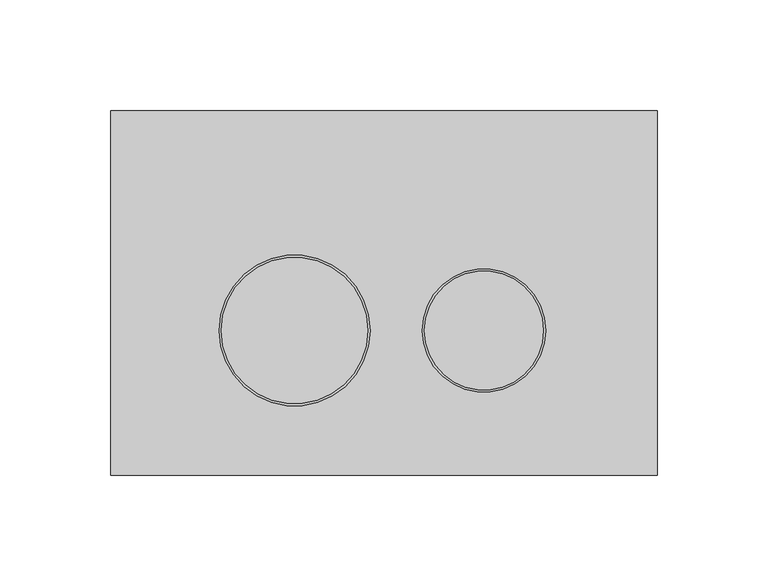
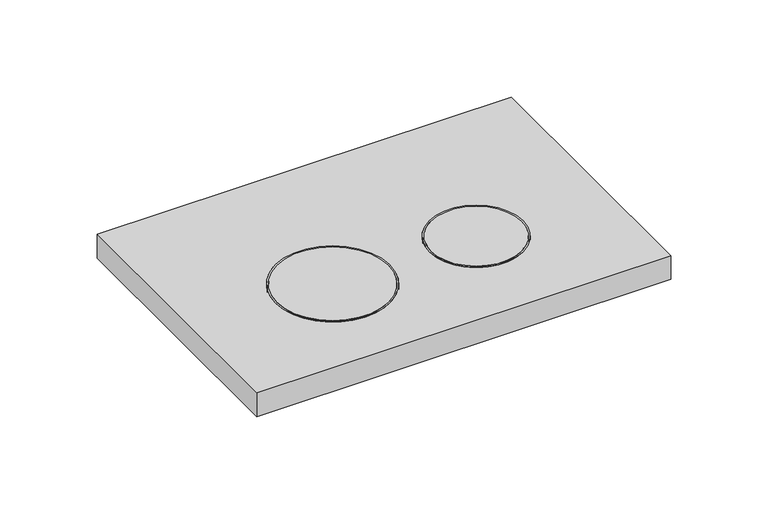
"""IFC4 building model written with IfcOpenShell, lengths in millimetres: flow terminal geometry, NLRS_74_PF_WPB_bedieningsplaat Sigma 20_Geberit : gr/kl spoeling mat/glans/matchr."""

from ifc_helpers import new_model, si_unit, point, frame_2d, origin, origin_with_axes, place, context, project, spatial, polyline, circle_curve, trimmed, segment, composite_curve, outline, extrude, source, transform, mapped, element, save


def flow_terminal_3ace58d7(model_context):
    return source(origin(), model_context, "Body", "SweptSolid", [
        extrude(outline(composite_curve([segment(trimmed(circle_curve(frame_2d((-40.3, -16.9)), 32.9952812), [point((-7.3047188, -16.9))], [point((-73.2952812, -16.9))], False, "CARTESIAN"), True, "CONTINUOUS"), segment(trimmed(circle_curve(frame_2d((-40.3, -16.9)), 32.9952812), [point((-73.2952812, -16.9))], [point((-7.3047188, -16.9))], False, "CARTESIAN"), True, "CONTINUOUS")], self_intersect=False)), origin_with_axes(), (0.0, 0.0, 1.0), 15.0),
        extrude(outline(composite_curve([segment(trimmed(circle_curve(frame_2d((45.0, -16.9)), 26.8033585), [point((71.8033585, -16.9))], [point((18.1966415, -16.9))], False, "CARTESIAN"), True, "CONTINUOUS"), segment(trimmed(circle_curve(frame_2d((45.0, -16.9)), 26.8033585), [point((18.1966415, -16.9))], [point((71.8033585, -16.9))], False, "CARTESIAN"), True, "CONTINUOUS")], self_intersect=False)), origin_with_axes(), (0.0, 0.0, 1.0), 15.0),
        extrude(outline(composite_curve([segment(trimmed(circle_curve(frame_2d((-40.3, -16.9)), 33.9952812), [point((-6.3047188, -16.9))], [point((-74.2952812, -16.9))], False, "CARTESIAN"), True, "CONTINUOUS"), segment(trimmed(circle_curve(frame_2d((-40.3, -16.9)), 33.9952812), [point((-74.2952812, -16.9))], [point((-6.3047188, -16.9))], False, "CARTESIAN"), True, "CONTINUOUS")], self_intersect=False), holes=[composite_curve([segment(trimmed(circle_curve(frame_2d((-40.3, -16.9)), 32.9952812), [point((-7.3047188, -16.9))], [point((-73.2952812, -16.9))], True, "CARTESIAN"), True, "CONTINUOUS"), segment(trimmed(circle_curve(frame_2d((-40.3, -16.9)), 32.9952812), [point((-73.2952812, -16.9))], [point((-7.3047188, -16.9))], True, "CARTESIAN"), True, "CONTINUOUS")], self_intersect=False)]), origin_with_axes(), (0.0, 0.0, 1.0), 15.0),
        extrude(outline(composite_curve([segment(trimmed(circle_curve(frame_2d((45.0, -16.9)), 27.8033585), [point((17.1966415, -16.9))], [point((72.8033585, -16.9))], False, "CARTESIAN"), True, "CONTINUOUS"), segment(trimmed(circle_curve(frame_2d((45.0, -16.9)), 27.8033585), [point((72.8033585, -16.9))], [point((17.1966415, -16.9))], False, "CARTESIAN"), True, "CONTINUOUS")], self_intersect=False), holes=[composite_curve([segment(trimmed(circle_curve(frame_2d((45.0, -16.9)), 26.8033585), [point((71.8033585, -16.9))], [point((18.1966415, -16.9))], True, "CARTESIAN"), True, "CONTINUOUS"), segment(trimmed(circle_curve(frame_2d((45.0, -16.9)), 26.8033585), [point((18.1966415, -16.9))], [point((71.8033585, -16.9))], True, "CARTESIAN"), True, "CONTINUOUS")], self_intersect=False)]), origin_with_axes(), (0.0, 0.0, 1.0), 15.0),
        extrude(outline(polyline([(-123.0, 82.0), (123.0, 82.0), (123.0, -82.0), (-123.0, -82.0), (-123.0, 82.0)]), holes=[composite_curve([segment(trimmed(circle_curve(frame_2d((-40.3, -16.9)), 33.9952812), [point((-6.3047188, -16.9))], [point((-74.2952812, -16.9))], True, "CARTESIAN"), True, "CONTINUOUS"), segment(trimmed(circle_curve(frame_2d((-40.3, -16.9)), 33.9952812), [point((-74.2952812, -16.9))], [point((-6.3047188, -16.9))], True, "CARTESIAN"), True, "CONTINUOUS")], self_intersect=False), composite_curve([segment(trimmed(circle_curve(frame_2d((45.0, -16.9)), 27.8033585), [point((17.1966415, -16.9))], [point((72.8033585, -16.9))], True, "CARTESIAN"), True, "CONTINUOUS"), segment(trimmed(circle_curve(frame_2d((45.0, -16.9)), 27.8033585), [point((72.8033585, -16.9))], [point((17.1966415, -16.9))], True, "CARTESIAN"), True, "CONTINUOUS")], self_intersect=False)]), origin_with_axes(), (0.0, 0.0, 1.0), 15.0),
    ])


if __name__ == "__main__":
    model = new_model("IFC4")
    model_context = context("Model", 3, world=origin())
    ifc_project = project(units=[si_unit("LENGTHUNIT", "METRE", prefix="MILLI")], contexts=[model_context])
    site = spatial("IfcSite", under=ifc_project)
    building = spatial("IfcBuilding", under=site)
    placement = place(None, origin())
    flow_terminal_shape = flow_terminal_3ace58d7(model_context)
    element("IfcFlowTerminal", 1, ObjectType="NLRS_74_PF_WPB_bedieningsplaat Sigma 20_Geberit : gr/kl spoeling mat/glans/matchr", at=placement, inside=building, context=model_context, shape_type="MappedRepresentation", body=[
        mapped(flow_terminal_shape, transform((0.0, 0.0, 0.0), x_axis=(1.0, 0.0, 0.0), y_axis=(0.0, 1.0, 0.0), z_axis=(0.0, 0.0, 1.0))),
    ])
    save(model, "model.ifc")
